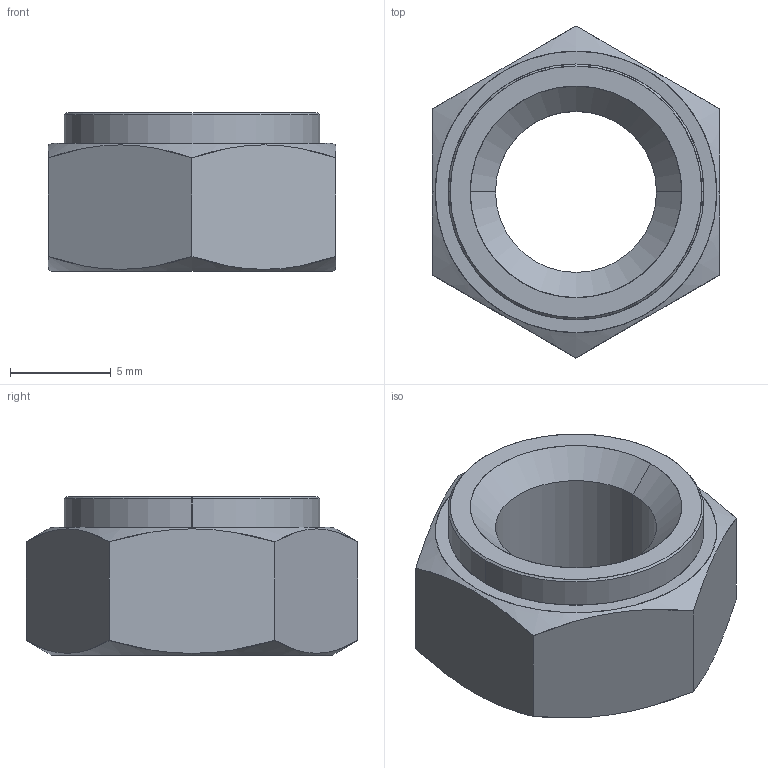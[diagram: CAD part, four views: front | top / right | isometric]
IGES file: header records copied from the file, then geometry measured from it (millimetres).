
Start section: SolidWorks IGES file using analytic representation for surfaces
Global section: file name: C:\Users\liam_\OneDrive\Desktop\Work\Mat Davis Pending 20181125\automotion\P SERIES\P0827.ZP_v2\P0827.ZP_v2_20181231_IGES\P0827.080-20G-ZP.igs; native system: SolidWorks 2017; preprocessor: SolidWorks 2017; author: liam_; date: 181231.110843; units: millimetre
Bounding box: 14.27 x 16.48 x 7.85 mm (x, y, z)
Surface area: 765.2 mm2 (no closed solid volume)
Topology: 0 solids, 0 shells, 23 faces, 424 edges, 424 vertices
Faces by surface type: revolution 14, bspline 9
